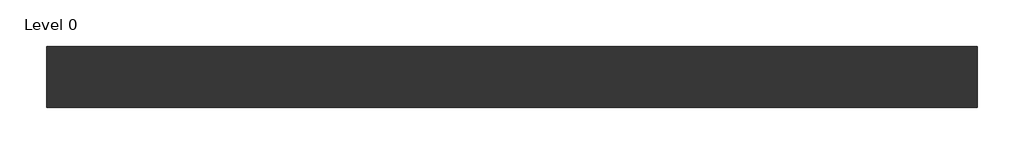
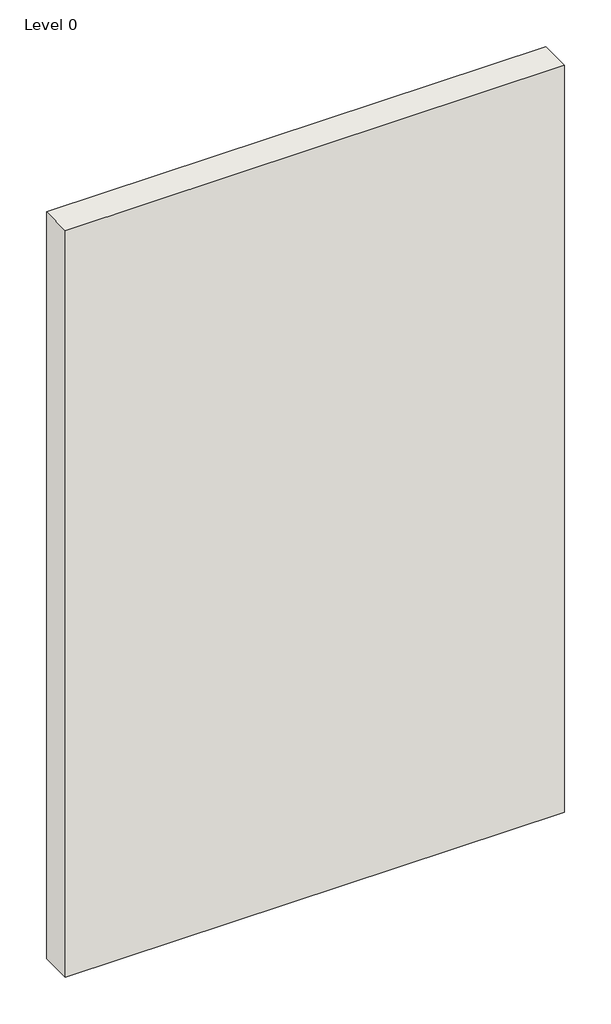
# One storey: 1 wall.
"""IFC4 building model written with IfcOpenShell, lengths in millimetres."""

from ifc_helpers import new_model, si_unit, origin, origin_with_axes, place, context, project, spatial, polyline, outline, extrude, element, save

model = new_model("IFC4")

# Units and contexts
model_context = context("Model", 3, world=origin())
ifc_project = project(units=[si_unit("LENGTHUNIT", "METRE", prefix="MILLI")], contexts=[model_context])

# Site, building, storey
site = spatial("IfcSite", under=ifc_project)
building = spatial("IfcBuilding", under=site)
storey = spatial("IfcBuildingStorey", under=building, Name="Level 0", Elevation=0.0)

# Wall
placement = place(None, origin())
element("IfcWall", 1, ObjectType="X606A014 - GypWall Extreme", at=placement, inside=storey, context=model_context, shape_type="SweptSolid", body=[
    extrude(outline(polyline([(1155.997948, 453.7669953), (-1944.002052, 453.7669953), (-1944.002052, 656.7669953), (1155.997948, 656.7669953), (1155.997948, 453.7669953)])), origin_with_axes(), (0.0, 0.0, 1.0), 4900.0),
])

save(model, "model.ifc")
